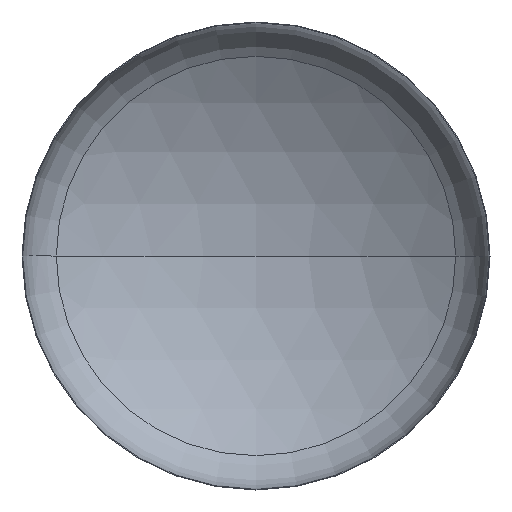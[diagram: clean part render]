
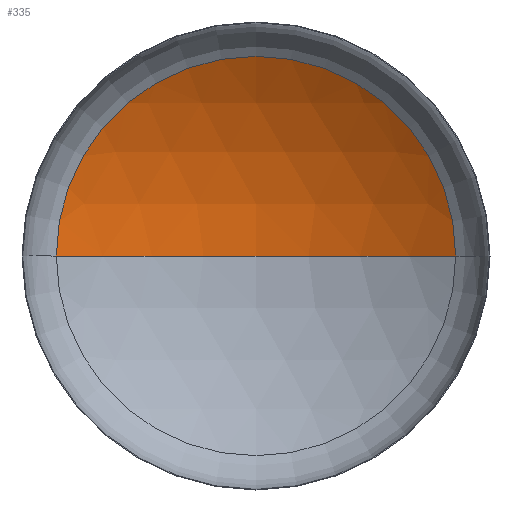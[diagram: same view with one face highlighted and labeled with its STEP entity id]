
A CAD part, front view. The second image highlights one B-rep face of the part: STEP entity #335.
In plain terms, the highlighted spherical face has radius 4800 mm.
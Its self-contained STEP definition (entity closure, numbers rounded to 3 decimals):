
#2 = ORIENTED_EDGE ( 'NONE', *, *, #223, .T. ) ;
#13 = ORIENTED_EDGE ( 'NONE', *, *, #225, .T. ) ;
#14 = VERTEX_POINT ( 'NONE', #280 ) ;
#27 = AXIS2_PLACEMENT_3D ( 'NONE', #133, #130, #251 ) ;
#55 = VERTEX_POINT ( 'NONE', #206 ) ;
#66 = ORIENTED_EDGE ( 'NONE', *, *, #228, .F. ) ;
#76 = EDGE_LOOP ( 'NONE', ( #66, #13, #2 ) ) ;
#77 = VERTEX_POINT ( 'NONE', #214 ) ;
#96 = AXIS2_PLACEMENT_3D ( 'NONE', #256, #279, #278 ) ;
#102 = AXIS2_PLACEMENT_3D ( 'NONE', #199, #194, #197 ) ;
#107 = AXIS2_PLACEMENT_3D ( 'NONE', #180, #389, #162 ) ;
#116 = CIRCLE ( 'NONE', #107, 2560.413 ) ;
#130 = DIRECTION ( 'NONE',  ( 0., 0., -1. ) ) ;
#133 = CARTESIAN_POINT ( 'NONE',  ( 0., -3252.672, 0. ) ) ;
#162 = DIRECTION ( 'NONE',  ( 1., 0., 0. ) ) ;
#180 = CARTESIAN_POINT ( 'NONE',  ( 0., 807.412, 0. ) ) ;
#194 = DIRECTION ( 'NONE',  ( 0., 0., -1. ) ) ;
#197 = DIRECTION ( 'NONE',  ( -1., 0., 0. ) ) ;
#199 = CARTESIAN_POINT ( 'NONE',  ( 0., -3252.672, 0. ) ) ;
#206 = CARTESIAN_POINT ( 'NONE',  ( 0., 1547.328, 0. ) ) ;
#214 = CARTESIAN_POINT ( 'NONE',  ( 2560.413, 807.412, 0. ) ) ;
#223 = EDGE_CURVE ( 'NONE', #77, #14, #116, .T. ) ;
#225 = EDGE_CURVE ( 'NONE', #55, #77, #398, .T. ) ;
#228 = EDGE_CURVE ( 'NONE', #55, #14, #392, .T. ) ;
#251 = DIRECTION ( 'NONE',  ( -1., 0., 0. ) ) ;
#256 = CARTESIAN_POINT ( 'NONE',  ( 0., -3252.672, 0. ) ) ;
#278 = DIRECTION ( 'NONE',  ( 1., 0., 0. ) ) ;
#279 = DIRECTION ( 'NONE',  ( 0., 0., 1. ) ) ;
#280 = CARTESIAN_POINT ( 'NONE',  ( -2560.413, 807.412, 0. ) ) ;
#301 = FACE_OUTER_BOUND ( 'NONE', #76, .T. ) ;
#335 = ADVANCED_FACE ( 'NONE', ( #301 ), #377, .F. ) ;
#377 = SPHERICAL_SURFACE ( 'NONE', #27, 4800. ) ;
#389 = DIRECTION ( 'NONE',  ( 0., -1., 0. ) ) ;
#392 = CIRCLE ( 'NONE', #96, 4800. ) ;
#398 = CIRCLE ( 'NONE', #102, 4800. ) ;
